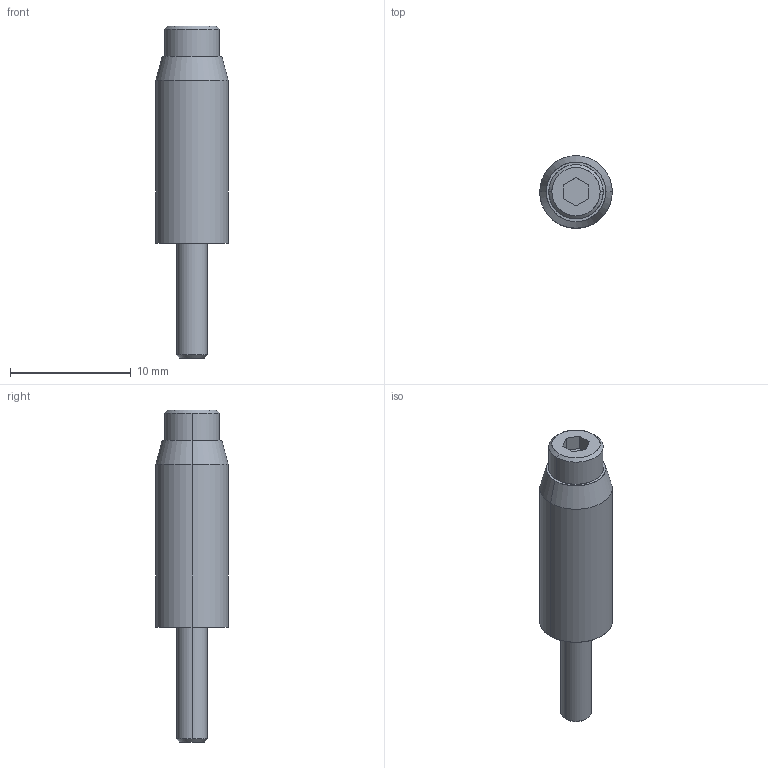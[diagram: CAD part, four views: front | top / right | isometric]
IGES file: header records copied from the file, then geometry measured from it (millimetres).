
Global section: file name: E:\UnigraphicsGraphicData\MISUMI_PRESS-PARTS\IGES\3d_sgc6-18_00793_r00.igs; native system: NX V5.0; preprocessor: UGS NX IGES V5.0; author: MISUMI; date: 20110105.162539; units: millimetre
Bounding box: 6 x 6 x 27.5 mm (x, y, z)
Surface area: 606.4 mm2 (no closed solid volume)
Topology: 0 solids, 0 shells, 27 faces, 180 edges, 180 vertices
Faces by surface type: bspline 27
